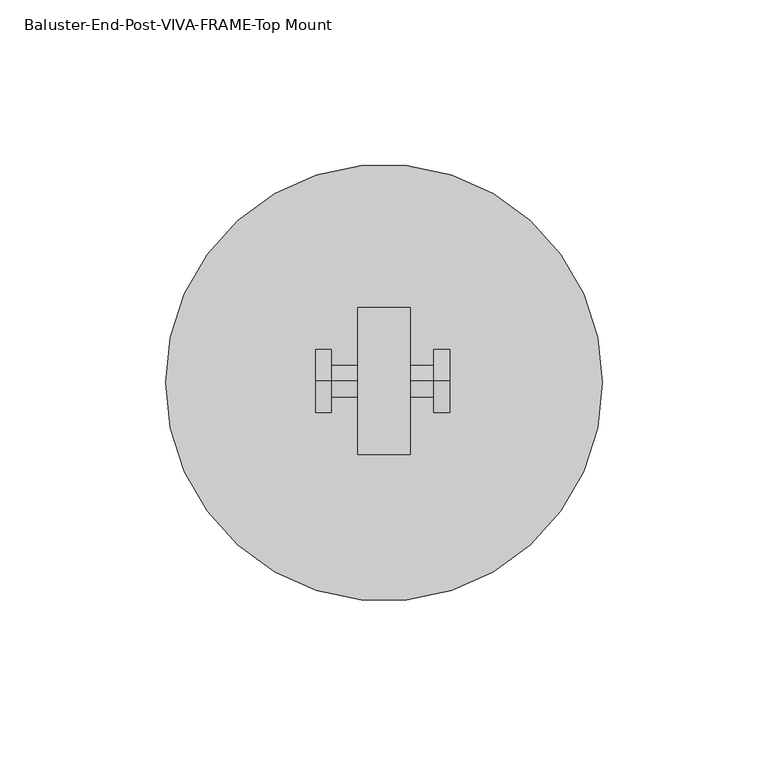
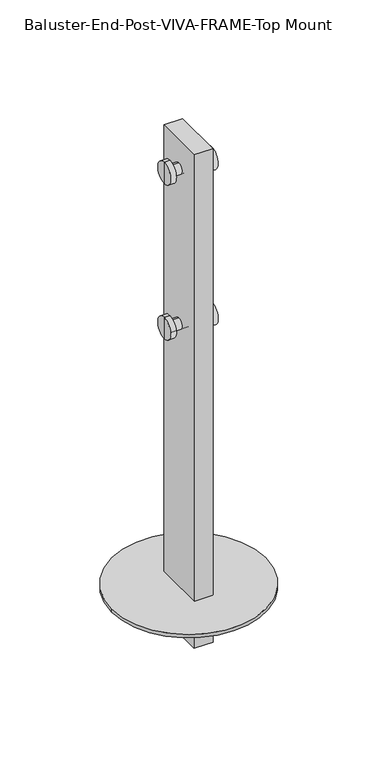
"""IFC4 building model written with IfcOpenShell, lengths in millimetres: proxy geometry, Baluster-End-Post-VIVA-FRAME-Top Mount : CORED INTO CONCRETE_TOP MOUNT FOLD_STRAIGHT."""

from ifc_helpers import new_model, si_unit, point, frame, frame_2d, origin, place, context, project, spatial, polyline, circle_curve, trimmed, segment, composite_curve, outline, extrude, source, transform, mapped, element, save
from ifc_brep_helpers import plane_surface, cylinder_surface, advanced_brep


def baluster_end_post_viva_frame_top_mount_933f940f(model_context):
    return source(origin(), model_context, "Body", "SolidModel", [
        extrude(outline(polyline([(7.9375, -78.2802567), (7.9375, -122.7302567), (-7.9375, -122.7302567), (-7.9375, -78.2802567), (7.9375, -78.2802567)])), frame((0.0, 0.0, -39.2093072), z_axis=(0.0, 0.0, 1.0), x_axis=(1.0, 0.0, 0.0)), (0.0, 0.0, 1.0), 446.1236627),
        advanced_brep(
        [(-20.6502, -100.5078, 231.7496), (-20.6502, -100.5078, 250.8504), (-20.6502, -100.5078, 241.3), (-15.875, -100.5078, 231.7496), (-15.875, -100.5078, 250.8504), (-15.875, -100.5078, 236.5248), (-15.875, -100.5078, 246.0752), (15.0622, -100.5078, 236.5248), (15.0622, -100.5078, 246.0752), (15.0622, -100.5078, 231.7496), (15.0622, -100.5078, 250.8504), (19.8374, -100.5078, 231.7496), (19.8374, -100.5078, 250.8504), (19.8374, -100.5078, 241.3)],
        [
            (0, 1, circle_curve(frame((-20.6502, -100.5078, 241.3), z_axis=(-1.0, 0.0, 0.0), x_axis=(0.0, 0.0, 1.0)), 9.5504)),
            (1, 2),
            (2, 0),
            (1, 0, circle_curve(frame((-20.6502, -100.5078, 241.3), z_axis=(-1.0, 0.0, 0.0), x_axis=(0.0, 0.0, 1.0)), 9.5504)),
            (3, 4, circle_curve(frame((-15.875, -100.5078, 241.3), z_axis=(-1.0, 0.0, 0.0), x_axis=(0.0, 0.0, 1.0)), 9.5504)),
            (4, 1),
            (0, 3),
            (4, 3, circle_curve(frame((-15.875, -100.5078, 241.3), z_axis=(-1.0, 0.0, 0.0), x_axis=(0.0, 0.0, 1.0)), 9.5504)),
            (5, 6, circle_curve(frame((-15.875, -100.5078, 241.3), z_axis=(-1.0, 0.0, 0.0), x_axis=(0.0, 0.0, 1.0)), 4.7752)),
            (6, 4),
            (3, 5),
            (6, 5, circle_curve(frame((-15.875, -100.5078, 241.3), z_axis=(-1.0, 0.0, 0.0), x_axis=(0.0, 0.0, 1.0)), 4.7752)),
            (7, 8, circle_curve(frame((15.0622, -100.5078, 241.3), z_axis=(-1.0, 0.0, 0.0), x_axis=(0.0, 0.0, 1.0)), 4.7752)),
            (8, 6),
            (5, 7),
            (8, 7, circle_curve(frame((15.0622, -100.5078, 241.3), z_axis=(-1.0, 0.0, 0.0), x_axis=(0.0, 0.0, 1.0)), 4.7752)),
            (9, 10, circle_curve(frame((15.0622, -100.5078, 241.3), z_axis=(-1.0, 0.0, 0.0), x_axis=(0.0, 0.0, 1.0)), 9.5504)),
            (10, 8),
            (7, 9),
            (10, 9, circle_curve(frame((15.0622, -100.5078, 241.3), z_axis=(-1.0, 0.0, 0.0), x_axis=(0.0, 0.0, 1.0)), 9.5504)),
            (11, 12, circle_curve(frame((19.8374, -100.5078, 241.3), z_axis=(-1.0, 0.0, 0.0), x_axis=(0.0, 0.0, 1.0)), 9.5504)),
            (12, 10),
            (9, 11),
            (12, 11, circle_curve(frame((19.8374, -100.5078, 241.3), z_axis=(-1.0, 0.0, 0.0), x_axis=(0.0, 0.0, 1.0)), 9.5504)),
            (13, 12),
            (11, 13),
        ],
        [
            plane_surface(frame((-20.6502, -100.5078, 241.3), z_axis=(-1.0, 0.0, 0.0), x_axis=(0.0, 0.0, 1.0))),
            cylinder_surface(frame((-3412.2305571, -100.5078, 241.3), z_axis=(1.0, 0.0, 0.0), x_axis=(0.0, 0.0, 1.0)), 9.5504),
            plane_surface(frame((-15.875, -100.5078, 241.3), z_axis=(1.0, 0.0, 0.0), x_axis=(0.0, 0.0, 1.0))),
            cylinder_surface(frame((-3412.2305571, -100.5078, 241.3), z_axis=(1.0, 0.0, 0.0), x_axis=(0.0, 0.0, 1.0)), 4.7752),
            plane_surface(frame((15.0622, -100.5078, 241.3), z_axis=(-1.0, 0.0, 0.0), x_axis=(0.0, 0.0, 1.0))),
            plane_surface(frame((19.8374, -100.5078, 241.3), z_axis=(1.0, 0.0, 0.0), x_axis=(0.0, 0.0, 1.0))),
        ],
        [
            (0, [[1, 2, 3]]),
            (0, [[4, -3, -2]]),
            (1, [[5, 6, -1, 7]]),
            (1, [[8, -7, -4, -6]]),
            (2, [[9, 10, -5, 11]]),
            (2, [[12, -11, -8, -10]]),
            (3, [[13, 14, -9, 15]]),
            (3, [[16, -15, -12, -14]]),
            (4, [[17, 18, -13, 19]]),
            (4, [[20, -19, -16, -18]]),
            (1, [[21, 22, -17, 23]]),
            (1, [[24, -23, -20, -22]]),
            (5, [[25, -21, 26]]),
            (5, [[-26, -24, -25]]),
        ],
    ),
        advanced_brep(
        [(-20.6502, -100.5078, 371.9639555), (-20.6502, -100.5078, 391.0647555), (-20.6502, -100.5078, 381.5143555), (-15.875, -100.5078, 371.9639555), (-15.875, -100.5078, 391.0647555), (-15.875, -100.5078, 376.7391555), (-15.875, -100.5078, 386.2895555), (15.0622, -100.5078, 376.7391555), (15.0622, -100.5078, 386.2895555), (15.0622, -100.5078, 371.9639555), (15.0622, -100.5078, 391.0647555), (19.8374, -100.5078, 371.9639555), (19.8374, -100.5078, 391.0647555), (19.8374, -100.5078, 381.5143555)],
        [
            (0, 1, circle_curve(frame((-20.6502, -100.5078, 381.5143555), z_axis=(-1.0, 0.0, 0.0), x_axis=(0.0, 0.0, 1.0)), 9.5504)),
            (1, 2),
            (2, 0),
            (1, 0, circle_curve(frame((-20.6502, -100.5078, 381.5143555), z_axis=(-1.0, 0.0, 0.0), x_axis=(0.0, 0.0, 1.0)), 9.5504)),
            (3, 4, circle_curve(frame((-15.875, -100.5078, 381.5143555), z_axis=(-1.0, 0.0, 0.0), x_axis=(0.0, 0.0, 1.0)), 9.5504)),
            (4, 1),
            (0, 3),
            (4, 3, circle_curve(frame((-15.875, -100.5078, 381.5143555), z_axis=(-1.0, 0.0, 0.0), x_axis=(0.0, 0.0, 1.0)), 9.5504)),
            (5, 6, circle_curve(frame((-15.875, -100.5078, 381.5143555), z_axis=(-1.0, 0.0, 0.0), x_axis=(0.0, 0.0, 1.0)), 4.7752)),
            (6, 4),
            (3, 5),
            (6, 5, circle_curve(frame((-15.875, -100.5078, 381.5143555), z_axis=(-1.0, 0.0, 0.0), x_axis=(0.0, 0.0, 1.0)), 4.7752)),
            (7, 8, circle_curve(frame((15.0622, -100.5078, 381.5143555), z_axis=(-1.0, 0.0, 0.0), x_axis=(0.0, 0.0, 1.0)), 4.7752)),
            (8, 6),
            (5, 7),
            (8, 7, circle_curve(frame((15.0622, -100.5078, 381.5143555), z_axis=(-1.0, 0.0, 0.0), x_axis=(0.0, 0.0, 1.0)), 4.7752)),
            (9, 10, circle_curve(frame((15.0622, -100.5078, 381.5143555), z_axis=(-1.0, 0.0, 0.0), x_axis=(0.0, 0.0, 1.0)), 9.5504)),
            (10, 8),
            (7, 9),
            (10, 9, circle_curve(frame((15.0622, -100.5078, 381.5143555), z_axis=(-1.0, 0.0, 0.0), x_axis=(0.0, 0.0, 1.0)), 9.5504)),
            (11, 12, circle_curve(frame((19.8374, -100.5078, 381.5143555), z_axis=(-1.0, 0.0, 0.0), x_axis=(0.0, 0.0, 1.0)), 9.5504)),
            (12, 10),
            (9, 11),
            (12, 11, circle_curve(frame((19.8374, -100.5078, 381.5143555), z_axis=(-1.0, 0.0, 0.0), x_axis=(0.0, 0.0, 1.0)), 9.5504)),
            (13, 12),
            (11, 13),
        ],
        [
            plane_surface(frame((-20.6502, -100.5078, 381.5143555), z_axis=(-1.0, 0.0, 0.0), x_axis=(0.0, 0.0, 1.0))),
            cylinder_surface(frame((-3412.2305571, -100.5078, 381.5143555), z_axis=(1.0, 0.0, 0.0), x_axis=(0.0, 0.0, 1.0)), 9.5504),
            plane_surface(frame((-15.875, -100.5078, 381.5143555), z_axis=(1.0, 0.0, 0.0), x_axis=(0.0, 0.0, 1.0))),
            cylinder_surface(frame((-3412.2305571, -100.5078, 381.5143555), z_axis=(1.0, 0.0, 0.0), x_axis=(0.0, 0.0, 1.0)), 4.7752),
            plane_surface(frame((15.0622, -100.5078, 381.5143555), z_axis=(-1.0, 0.0, 0.0), x_axis=(0.0, 0.0, 1.0))),
            plane_surface(frame((19.8374, -100.5078, 381.5143555), z_axis=(1.0, 0.0, 0.0), x_axis=(0.0, 0.0, 1.0))),
        ],
        [
            (0, [[1, 2, 3]]),
            (0, [[4, -3, -2]]),
            (1, [[5, 6, -1, 7]]),
            (1, [[8, -7, -4, -6]]),
            (2, [[9, 10, -5, 11]]),
            (2, [[12, -11, -8, -10]]),
            (3, [[13, 14, -9, 15]]),
            (3, [[16, -15, -12, -14]]),
            (4, [[17, 18, -13, 19]]),
            (4, [[20, -19, -16, -18]]),
            (1, [[21, 22, -17, 23]]),
            (1, [[24, -23, -20, -22]]),
            (5, [[25, -21, 26]]),
            (5, [[-26, -24, -25]]),
        ],
    ),
        extrude(outline(composite_curve([segment(trimmed(circle_curve(frame_2d((0.0, -100.9769621)), 66.0), [point((-66.0, -100.9769621))], [point((66.0, -100.9769621))], False, "CARTESIAN"), True, "CONTINUOUS"), segment(trimmed(circle_curve(frame_2d((0.0, -100.9769621)), 66.0), [point((66.0, -100.9769621))], [point((-66.0, -100.9769621))], False, "CARTESIAN"), True, "CONTINUOUS")], self_intersect=False)), frame((0.0, 0.0, 0.5143555), z_axis=(0.0, 0.0, 1.0), x_axis=(1.0, 0.0, 0.0)), (0.0, 0.0, 1.0), 3.0),
    ])


if __name__ == "__main__":
    model = new_model("IFC4")
    model_context = context("Model", 3, world=origin())
    ifc_project = project(units=[si_unit("LENGTHUNIT", "METRE", prefix="MILLI")], contexts=[model_context])
    site = spatial("IfcSite", under=ifc_project)
    building = spatial("IfcBuilding", under=site)
    placement = place(None, origin())
    baluster_end_post_viva_frame_top_mount_shape = baluster_end_post_viva_frame_top_mount_933f940f(model_context)
    element("IfcBuildingElementProxy", 1, Name="Baluster-End-Post-VIVA-FRAME-Top Mount : CORED INTO CONCRETE_TOP MOUNT FOLD_STRAIGHT", ObjectType="Baluster-End-Post-VIVA-FRAME-Top Mount : CORED INTO CONCRETE_TOP MOUNT FOLD_STRAIGHT", at=placement, inside=building, context=model_context, shape_type="MappedRepresentation", body=[
        mapped(baluster_end_post_viva_frame_top_mount_shape, transform((0.0, 0.0, 0.0), x_axis=(1.0, 0.0, 0.0), y_axis=(0.0, 1.0, 0.0), z_axis=(0.0, 0.0, 1.0))),
    ])
    save(model, "model.ifc")
